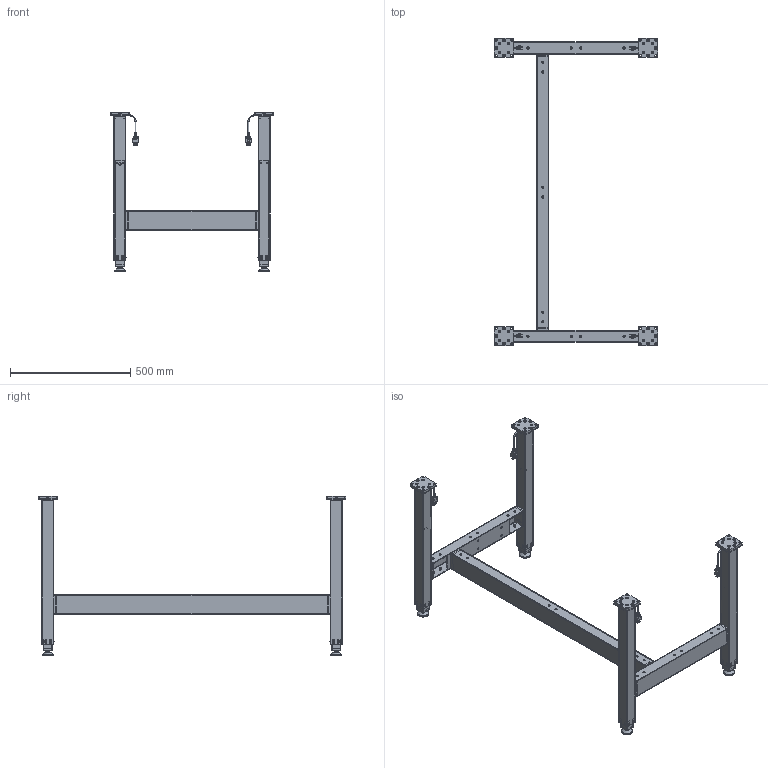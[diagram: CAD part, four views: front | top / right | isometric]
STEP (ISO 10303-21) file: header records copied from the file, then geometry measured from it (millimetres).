
FILE_DESCRIPTION(/* description */ ('Unknown'),/* implementation_level */ '2;1');
FILE_NAME(/* name */ 'Untergestell SE.3 4330 1200_00-Eingefahren',/* time_stamp */ '2022-02-03T17:12:04+01:00',/* author */ ('Unknown'),/* organization */ ('Unknown'),/* preprocessor_version */ 'ST-DEVELOPER v18.1',/* originating_system */ 'Solid Edge',/* authorisation */ 'Unknown');
FILE_SCHEMA (('AUTOMOTIVE_DESIGN {1 0 10303 214 3 1 1}'));
Length unit declared in the file: millimetre
Products named in the file (29): Untergestell SE.3 4330 1200; 908.02003_oa_0; 127.00655; 127.00658; Aussenrohr 50x50x2 bearbeitet_2018 08 15; Flanschplatte_2018 08 15; Anschweissplatte Traverse_2018 08 15; 127.00658_515_565_Kehlnaht 2_oa_1; 127.00658_515_565_Kehlnaht 2_oa_2; 127.00660; Innenrohr 40x40x2_2018 08 15; Bodenplatte_2018 0815; 128.00070; 142.00077; 142.00166; Kabel Molex; 908.02003_oa_3; 115.00150; 127.00365; 127.00055; 127.00039; 113.00006; 113.00006-ohne Mutter; Mutter M10; 908.02003_oa_6; 908.02003_oa_9; 115.00153; 127.00372; 127.00132
Assembly tree (104 placements, depth 4):
  Untergestell SE.3 4330 1200
    908.02003_oa_0
      127.00655
      127.00658
        Aussenrohr 50x50x2 bearbeitet_2018 08 15
        Flanschplatte_2018 08 15
        Anschweissplatte Traverse_2018 08 15
        127.00658_515_565_Kehlnaht 2_oa_1
        127.00658_515_565_Kehlnaht 2_oa_2
      127.00660
        Innenrohr 40x40x2_2018 08 15
        Bodenplatte_2018 0815
      128.00070  x8
      142.00077  x3
      142.00166  x4
      Kabel Molex
    908.02003_oa_3
      127.00655
      127.00658
        Aussenrohr 50x50x2 bearbeitet_2018 08 15
        Flanschplatte_2018 08 15
        Anschweissplatte Traverse_2018 08 15
        127.00658_515_565_Kehlnaht 2_oa_1
        127.00658_515_565_Kehlnaht 2_oa_2
      127.00660
        Innenrohr 40x40x2_2018 08 15
        Bodenplatte_2018 0815
      128.00070  x8
      142.00077  x3
      142.00166  x4
      Kabel Molex
    115.00150  x2
      127.00365
        127.00055
        127.00039  x2
    113.00006  x4
      113.00006-ohne Mutter
      Mutter M10
    908.02003_oa_6
      127.00655
      127.00658
        Aussenrohr 50x50x2 bearbeitet_2018 08 15
        Flanschplatte_2018 08 15
        Anschweissplatte Traverse_2018 08 15
        127.00658_515_565_Kehlnaht 2_oa_1
        127.00658_515_565_Kehlnaht 2_oa_2
      127.00660
        Innenrohr 40x40x2_2018 08 15
        Bodenplatte_2018 0815
      128.00070  x8
      142.00077  x3
      142.00166  x4
      Kabel Molex
    908.02003_oa_9
      127.00655
      127.00658
        Aussenrohr 50x50x2 bearbeitet_2018 08 15
        Flanschplatte_2018 08 15
        Anschweissplatte Traverse_2018 08 15
        127.00658_515_565_Kehlnaht 2_oa_1
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Bounding box: 680 x 1280 x 663 mm (x, y, z)
Volume: 3142587 mm3; surface area: 2814185.4 mm2
Topology: 141 solids, 141 shells, 4268 faces, 10924 edges, 7198 vertices
Faces by surface type: plane 2866, cylinder 882, torus 220, cone 156, bspline 144
Full cylindrical faces by diameter (mm): 4.917 x76, 5 x24, 5.5 x16, 6 x12, 6.5 x12, 6.647 x12, 6.8 x24, 8.376 x8, 8.5 x16, 9 x74, 9.5 x4, 10 x20, 13 x12, 15 x4, 19 x4, 25 x4, 29 x4, 35 x4, 39 x4, 47 x4
Entity records: 35191 total; most frequent: CARTESIAN_POINT 6665, DIRECTION 4754, ORIENTED_EDGE 4410, EDGE_CURVE 2205, AXIS2_PLACEMENT_3D 1679, VERTEX_POINT 1523, LINE 1396, VECTOR 1396
